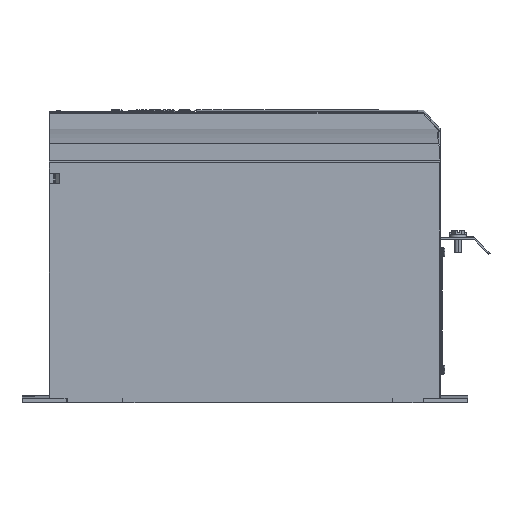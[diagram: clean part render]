
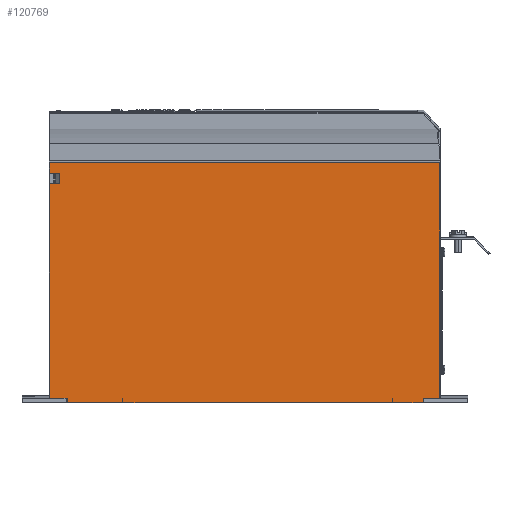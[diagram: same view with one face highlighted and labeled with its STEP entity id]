
A CAD part, left-side view. The second image highlights one B-rep face of the part: STEP entity #120769.
In plain terms, the highlighted planar face has unit normal (-1, 0, 0).
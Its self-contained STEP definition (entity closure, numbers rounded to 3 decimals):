
#43682=DIRECTION('',(0.,1.,0.));
#43683=VECTOR('',#43682,8.146);
#43684=CARTESIAN_POINT('',(-82.5,166.604,205.45));
#43685=LINE('',#43684,#43683);
#43689=DIRECTION('',(0.,0.,1.));
#43690=VECTOR('',#43689,9.2);
#43691=CARTESIAN_POINT('',(-82.5,174.75,205.45));
#43692=LINE('',#43691,#43690);
#43696=DIRECTION('',(0.,1.,0.));
#43697=VECTOR('',#43696,349.25);
#43698=CARTESIAN_POINT('',(-82.5,-174.5,214.65));
#43699=LINE('',#43698,#43697);
#43703=DIRECTION('',(0.,0.,-1.));
#43704=VECTOR('',#43703,210.882);
#43705=CARTESIAN_POINT('',(-82.5,-174.5,214.65));
#43706=LINE('',#43705,#43704);
#43710=DIRECTION('',(0.,1.,0.));
#43711=VECTOR('',#43710,14.95);
#43712=CARTESIAN_POINT('',(-82.5,-174.5,3.768));
#43713=LINE('',#43712,#43711);
#43717=DIRECTION('',(0.,0.,1.));
#43718=VECTOR('',#43717,3.768);
#43719=CARTESIAN_POINT('',(-82.5,-132.589,0.));
#43720=LINE('',#43719,#43718);
#43724=DIRECTION('',(0.,1.,0.));
#43725=VECTOR('',#43724,0.5);
#43726=CARTESIAN_POINT('',(-82.5,-132.589,3.768));
#43727=LINE('',#43726,#43725);
#43731=DIRECTION('',(0.,0.,-1.));
#43732=VECTOR('',#43731,3.775);
#43733=CARTESIAN_POINT('',(-82.5,-132.089,3.768));
#43734=LINE('',#43733,#43732);
#43738=DIRECTION('',(0.,1.,0.));
#43739=VECTOR('',#43738,241.178);
#43740=CARTESIAN_POINT('',(-82.5,-132.089,-0.007));
#43741=LINE('',#43740,#43739);
#43745=DIRECTION('',(0.,0.,1.));
#43746=VECTOR('',#43745,3.775);
#43747=CARTESIAN_POINT('',(-82.5,109.089,-0.007));
#43748=LINE('',#43747,#43746);
#43752=DIRECTION('',(0.,1.,0.));
#43753=VECTOR('',#43752,0.5);
#43754=CARTESIAN_POINT('',(-82.5,109.089,3.768));
#43755=LINE('',#43754,#43753);
#43759=DIRECTION('',(0.,0.,1.));
#43760=VECTOR('',#43759,3.768);
#43761=CARTESIAN_POINT('',(-82.5,109.589,0.));
#43762=LINE('',#43761,#43760);
#43766=DIRECTION('',(0.,1.,0.));
#43767=VECTOR('',#43766,15.594);
#43768=CARTESIAN_POINT('',(-82.5,159.156,3.768));
#43769=LINE('',#43768,#43767);
#43773=DIRECTION('',(0.,0.,1.));
#43774=VECTOR('',#43773,192.182);
#43775=CARTESIAN_POINT('',(-82.5,174.75,3.768));
#43776=LINE('',#43775,#43774);
#43780=DIRECTION('',(0.,1.,0.));
#43781=VECTOR('',#43780,8.854);
#43782=CARTESIAN_POINT('',(-82.5,165.896,195.95));
#43783=LINE('',#43782,#43781);
#43787=DIRECTION('',(0.,0.,-1.));
#43788=VECTOR('',#43787,9.);
#43789=CARTESIAN_POINT('',(-82.5,165.896,
204.95));
#43790=LINE('',#43789,#43788);
#43794=CARTESIAN_POINT('',(-82.5,165.896,
204.95));
#43795=CARTESIAN_POINT('',(-82.5,165.896,
204.967));
#43796=CARTESIAN_POINT('',(-82.5,165.899,
205.001));
#43797=CARTESIAN_POINT('',(-82.5,165.911,
205.055));
#43798=CARTESIAN_POINT('',(-82.5,165.932,
205.111));
#43799=CARTESIAN_POINT('',(-82.5,165.966,
205.17));
#43800=CARTESIAN_POINT('',(-82.5,166.013,
205.228));
#43801=CARTESIAN_POINT('',(-82.5,166.075,
205.285));
#43802=CARTESIAN_POINT('',(-82.5,166.152,
205.337));
#43803=CARTESIAN_POINT('',(-82.5,166.244,
205.383));
#43804=CARTESIAN_POINT('',(-82.5,166.352,
205.42));
#43805=CARTESIAN_POINT('',(-82.5,166.473,
205.444));
#43806=CARTESIAN_POINT('',(-82.5,166.559,
205.45));
#43807=CARTESIAN_POINT('',(-82.5,166.604,205.45));
#44021=CARTESIAN_POINT('',(-82.5,-174.5,3.768));
#44047=CARTESIAN_POINT('',(-82.5,174.75,3.768));
#46194=DIRECTION('',(0.,-1.,0.));
#46195=VECTOR('',#46194,26.961);
#46196=CARTESIAN_POINT('',(-82.5,-132.589,0.));
#46197=LINE('',#46196,#46195);
#46244=DIRECTION('',(0.,0.,1.));
#46245=VECTOR('',#46244,3.768);
#46246=CARTESIAN_POINT('',(-82.5,-159.55,0.));
#46247=LINE('',#46246,#46245);
#47201=DIRECTION('',(0.,0.,1.));
#47202=VECTOR('',#47201,3.768);
#47203=CARTESIAN_POINT('',(-82.5,159.156,0.));
#47204=LINE('',#47203,#47202);
#47244=DIRECTION('',(0.,-1.,0.));
#47245=VECTOR('',#47244,49.567);
#47246=CARTESIAN_POINT('',(-82.5,159.156,0.));
#47247=LINE('',#47246,#47245);
#64546=CARTESIAN_POINT('',(-82.5,-132.089,-0.007));
#64547=CARTESIAN_POINT('',(-82.5,109.089,-0.007));
#64548=VERTEX_POINT('',#64546);
#64549=VERTEX_POINT('',#64547);
#64555=CARTESIAN_POINT('',(-82.5,109.089,3.768));
#64557=VERTEX_POINT('',#64555);
#64559=CARTESIAN_POINT('',(-82.5,-132.089,3.768));
#64561=VERTEX_POINT('',#64559);
#64568=CARTESIAN_POINT('',(-82.5,-132.589,0.));
#64569=VERTEX_POINT('',#64568);
#64570=CARTESIAN_POINT('',(-82.5,-159.55,0.));
#64571=VERTEX_POINT('',#64570);
#64594=CARTESIAN_POINT('',(-82.5,-132.589,3.768));
#64595=VERTEX_POINT('',#64594);
#64596=CARTESIAN_POINT('',(-82.5,-159.55,3.768));
#64598=VERTEX_POINT('',#64596);
#64643=VERTEX_POINT('',#44021);
#64650=CARTESIAN_POINT('',(-82.5,109.589,0.));
#64651=VERTEX_POINT('',#64650);
#64652=CARTESIAN_POINT('',(-82.5,159.156,0.));
#64653=VERTEX_POINT('',#64652);
#64676=CARTESIAN_POINT('',(-82.5,109.589,3.768));
#64677=VERTEX_POINT('',#64676);
#64678=CARTESIAN_POINT('',(-82.5,159.156,3.768));
#64680=VERTEX_POINT('',#64678);
#65087=CARTESIAN_POINT('',(-82.5,-174.5,214.65));
#65089=VERTEX_POINT('',#65087);
#65760=CARTESIAN_POINT('',(-82.5,174.75,214.65));
#65762=VERTEX_POINT('',#65760);
#65764=VERTEX_POINT('',#44047);
#65792=CARTESIAN_POINT('',(-82.5,166.604,205.45));
#65793=CARTESIAN_POINT('',(-82.5,174.75,205.45));
#65794=VERTEX_POINT('',#65792);
#65795=VERTEX_POINT('',#65793);
#65847=VERTEX_POINT('',#43794);
#65851=CARTESIAN_POINT('',(-82.5,165.896,195.95));
#65852=VERTEX_POINT('',#65851);
#66052=CARTESIAN_POINT('',(-82.5,174.75,195.95));
#66054=VERTEX_POINT('',#66052);
#120720=CARTESIAN_POINT('',(-82.5,-175.,3.768));
#120721=DIRECTION('',(-1.,0.,0.));
#120722=DIRECTION('',(0.,0.,1.));
#120723=AXIS2_PLACEMENT_3D('',#120720,#120721,#120722);
#120724=PLANE('',#120723);
#120726=ORIENTED_EDGE('',*,*,#120725,.T.);
#120728=ORIENTED_EDGE('',*,*,#120727,.T.);
#120730=ORIENTED_EDGE('',*,*,#120729,.F.);
#120732=ORIENTED_EDGE('',*,*,#120731,.T.);
#120734=ORIENTED_EDGE('',*,*,#120733,.T.);
#120736=ORIENTED_EDGE('',*,*,#120735,.F.);
#120738=ORIENTED_EDGE('',*,*,#120737,.F.);
#120740=ORIENTED_EDGE('',*,*,#120739,.T.);
#120742=ORIENTED_EDGE('',*,*,#120741,.T.);
#120744=ORIENTED_EDGE('',*,*,#120743,.T.);
#120746=ORIENTED_EDGE('',*,*,#120745,.T.);
#120748=ORIENTED_EDGE('',*,*,#120747,.T.);
#120750=ORIENTED_EDGE('',*,*,#120749,.T.);
#120752=ORIENTED_EDGE('',*,*,#120751,.F.);
#120754=ORIENTED_EDGE('',*,*,#120753,.F.);
#120756=ORIENTED_EDGE('',*,*,#120755,.T.);
#120758=ORIENTED_EDGE('',*,*,#120757,.T.);
#120760=ORIENTED_EDGE('',*,*,#120759,.T.);
#120762=ORIENTED_EDGE('',*,*,#120761,.F.);
#120764=ORIENTED_EDGE('',*,*,#120763,.F.);
#120766=ORIENTED_EDGE('',*,*,#120765,.T.);
#120767=EDGE_LOOP('',(#120726,#120728,#120730,#120732,#120734,#120736,#120738,
#120740,#120742,#120744,#120746,#120748,#120750,#120752,#120754,#120756,#120758,
#120760,#120762,#120764,#120766));
#120768=FACE_OUTER_BOUND('',#120767,.F.);
#120769=ADVANCED_FACE('',(#120768),#120724,.T.);
#43808=B_SPLINE_CURVE_WITH_KNOTS('',3,(#43794,#43795,#43796,#43797,#43798,
#43799,#43800,#43801,#43802,#43803,#43804,#43805,#43806,#43807),.UNSPECIFIED.,
.F.,.F.,(4,1,1,1,1,1,1,1,1,1,1,4),(0.,0.091,0.182,
0.273,0.364,0.455,0.545,
0.636,0.727,0.818,0.909,1.),
.UNSPECIFIED.);
#120725=EDGE_CURVE('',#65794,#65795,#43685,.T.);
#120727=EDGE_CURVE('',#65795,#65762,#43692,.T.);
#120729=EDGE_CURVE('',#65089,#65762,#43699,.T.);
#120731=EDGE_CURVE('',#65089,#64643,#43706,.T.);
#120733=EDGE_CURVE('',#64643,#64598,#43713,.T.);
#120735=EDGE_CURVE('',#64571,#64598,#46247,.T.);
#120737=EDGE_CURVE('',#64569,#64571,#46197,.T.);
#120739=EDGE_CURVE('',#64569,#64595,#43720,.T.);
#120741=EDGE_CURVE('',#64595,#64561,#43727,.T.);
#120743=EDGE_CURVE('',#64561,#64548,#43734,.T.);
#120745=EDGE_CURVE('',#64548,#64549,#43741,.T.);
#120747=EDGE_CURVE('',#64549,#64557,#43748,.T.);
#120749=EDGE_CURVE('',#64557,#64677,#43755,.T.);
#120751=EDGE_CURVE('',#64651,#64677,#43762,.T.);
#120753=EDGE_CURVE('',#64653,#64651,#47247,.T.);
#120755=EDGE_CURVE('',#64653,#64680,#47204,.T.);
#120757=EDGE_CURVE('',#64680,#65764,#43769,.T.);
#120759=EDGE_CURVE('',#65764,#66054,#43776,.T.);
#120761=EDGE_CURVE('',#65852,#66054,#43783,.T.);
#120763=EDGE_CURVE('',#65847,#65852,#43790,.T.);
#120765=EDGE_CURVE('',#65847,#65794,#43808,.T.);
